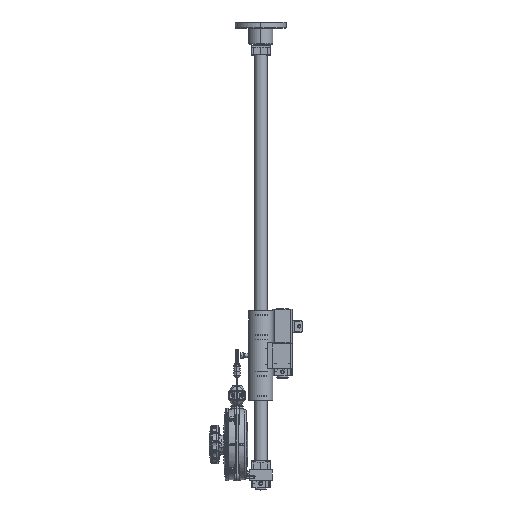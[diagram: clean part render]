
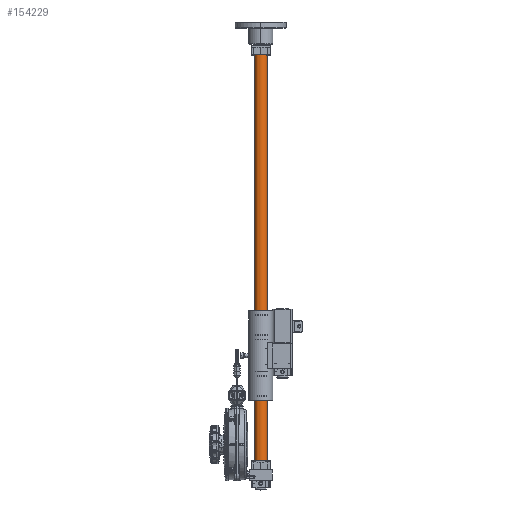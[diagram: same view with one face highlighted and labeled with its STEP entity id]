
A CAD part, top view. The second image highlights one B-rep face of the part: STEP entity #154229.
In plain terms, the highlighted cylindrical face has radius 10 mm (diameter 20 mm), a partial arc.
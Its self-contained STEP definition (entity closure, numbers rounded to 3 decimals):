
#100 = ORIENTED_EDGE ( 'NONE', *, *, #150404, .T. ) ;
#3006 = DIRECTION ( 'NONE',  ( -1., 0., 0. ) ) ;
#29006 = EDGE_LOOP ( 'NONE', ( #31382, #100, #210765, #180221 ) ) ;
#31382 = ORIENTED_EDGE ( 'NONE', *, *, #134929, .F. ) ;
#36238 = AXIS2_PLACEMENT_3D ( 'NONE', #184688, #85817, #37656 ) ;
#37656 = DIRECTION ( 'NONE',  ( 1., 0., 0. ) ) ;
#38572 = VERTEX_POINT ( 'NONE', #171765 ) ;
#46972 = CARTESIAN_POINT ( 'NONE',  ( 0., 467.437, 0. ) ) ;
#50473 = CARTESIAN_POINT ( 'NONE',  ( -10., 466.937, 0. ) ) ;
#68441 = DIRECTION ( 'NONE',  ( 0., -1., 0. ) ) ;
#72496 = CYLINDRICAL_SURFACE ( 'NONE', #91310, 10. ) ;
#73621 = VERTEX_POINT ( 'NONE', #147255 ) ;
#78974 = EDGE_CURVE ( 'NONE', #85929, #73621, #179256, .T. ) ;
#83339 = AXIS2_PLACEMENT_3D ( 'NONE', #102929, #84860, #118191 ) ;
#84860 = DIRECTION ( 'NONE',  ( 0., -1., 0. ) ) ;
#85817 = DIRECTION ( 'NONE',  ( 0., 1., 0. ) ) ;
#85929 = VERTEX_POINT ( 'NONE', #50473 ) ;
#91196 = LINE ( 'NONE', #116187, #153187 ) ;
#91310 = AXIS2_PLACEMENT_3D ( 'NONE', #46972, #146431, #3006 ) ;
#102929 = CARTESIAN_POINT ( 'NONE',  ( 0., 466.937, 0. ) ) ;
#109239 = VERTEX_POINT ( 'NONE', #122397 ) ;
#116187 = CARTESIAN_POINT ( 'NONE',  ( 10., 467.437, 0. ) ) ;
#117246 = DIRECTION ( 'NONE',  ( 0., -1., 0. ) ) ;
#118191 = DIRECTION ( 'NONE',  ( 1., 0., 0. ) ) ;
#122397 = CARTESIAN_POINT ( 'NONE',  ( 10., 466.937, 0. ) ) ;
#134929 = EDGE_CURVE ( 'NONE', #109239, #38572, #91196, .T. ) ;
#144829 = CIRCLE ( 'NONE', #83339, 10. ) ;
#146431 = DIRECTION ( 'NONE',  ( 0., -1., 0. ) ) ;
#147255 = CARTESIAN_POINT ( 'NONE',  ( -10., -232.063, 0. ) ) ;
#150404 = EDGE_CURVE ( 'NONE', #109239, #85929, #144829, .T. ) ;
#151067 = CARTESIAN_POINT ( 'NONE',  ( -10., 467.437, 0. ) ) ;
#153187 = VECTOR ( 'NONE', #68441, 1000. ) ;
#154229 = ADVANCED_FACE ( 'NONE', ( #165452 ), #72496, .T. ) ;
#163689 = EDGE_CURVE ( 'NONE', #73621, #38572, #190718, .T. ) ;
#165452 = FACE_OUTER_BOUND ( 'NONE', #29006, .T. ) ;
#171765 = CARTESIAN_POINT ( 'NONE',  ( 10., -232.063, 0. ) ) ;
#179256 = LINE ( 'NONE', #151067, #194747 ) ;
#180221 = ORIENTED_EDGE ( 'NONE', *, *, #163689, .T. ) ;
#184688 = CARTESIAN_POINT ( 'NONE',  ( 0., -232.063, 0. ) ) ;
#190718 = CIRCLE ( 'NONE', #36238, 10. ) ;
#194747 = VECTOR ( 'NONE', #117246, 1000. ) ;
#210765 = ORIENTED_EDGE ( 'NONE', *, *, #78974, .T. ) ;
